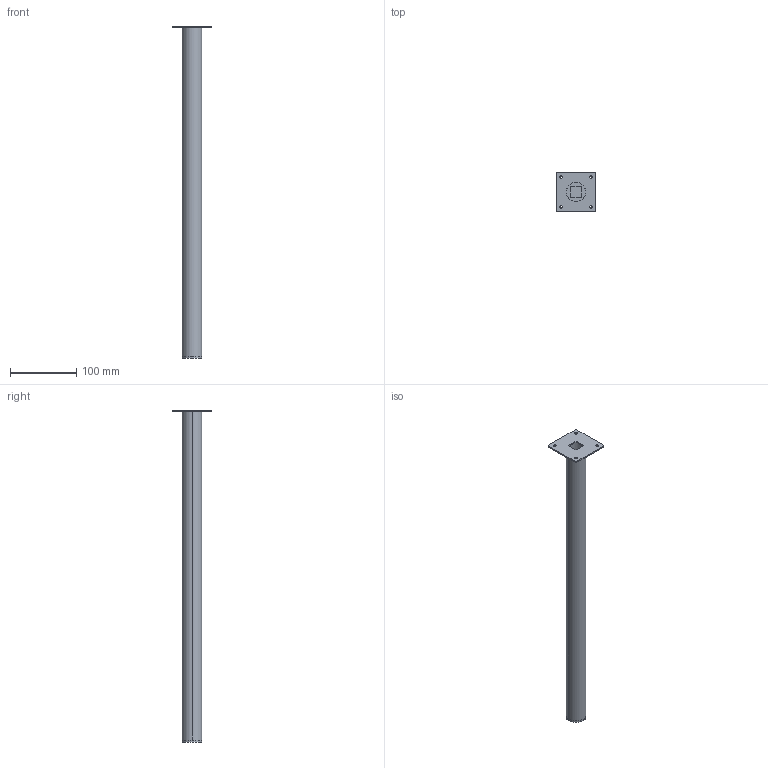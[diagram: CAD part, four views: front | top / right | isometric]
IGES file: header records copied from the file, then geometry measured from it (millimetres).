
Start section: Data from XPlus IGES,  Spatial Corp. Copyright (c) 1999-2004
Global section: file name: 46273.igs; native system:  By Spatial Corp.; preprocessor: XPlus ACIS/IGES 3.0; author: Noname; organization: Noname; date: 20140207.105414; units: millimetre
Bounding box: 60 x 60 x 500 mm (x, y, z)
Surface area: 99170.8 mm2 (no closed solid volume)
Topology: 0 solids, 0 shells, 35 faces, 168 edges, 168 vertices
Faces by surface type: revolution 20, extrusion 15
